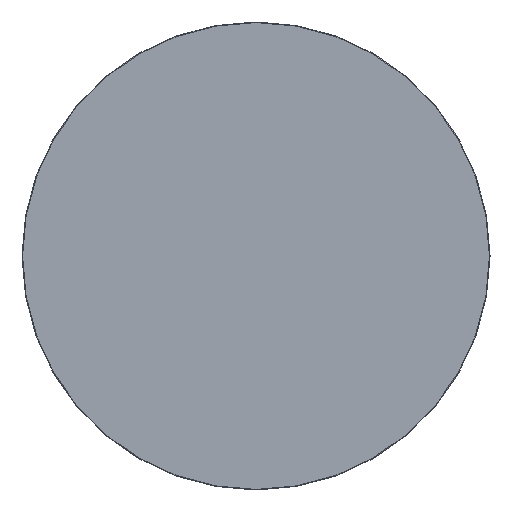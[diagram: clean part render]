
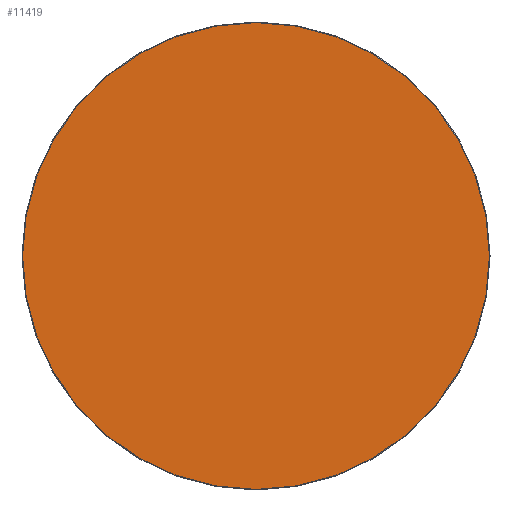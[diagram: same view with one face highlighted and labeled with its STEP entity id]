
A CAD part, top view. The second image highlights one B-rep face of the part: STEP entity #11419.
In plain terms, the highlighted planar face has unit normal (0, 0, 1).
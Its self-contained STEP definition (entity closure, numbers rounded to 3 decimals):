
#11344=CARTESIAN_POINT('',(0.,0.,20.));
#11345=DIRECTION('',(1.,0.,0.));
#11346=DIRECTION('',(0.,0.,1.));
#11347=AXIS2_PLACEMENT_3D('',#11344,#11346,#11345);
#11348=PLANE('',#11347);
#11349=CARTESIAN_POINT('',(-0.5,-598.5,20.));
#11350=VERTEX_POINT('',#11349);
#11351=CARTESIAN_POINT('',(0.5,-598.5,20.));
#11352=VERTEX_POINT('',#11351);
#11353=CARTESIAN_POINT('',(-0.5,-598.5,20.));
#11354=DIRECTION('',(1.,0.,0.));
#11355=VECTOR('',#11354,1.);
#11356=LINE('',#11353,#11355);
#11357=EDGE_CURVE('',#11350,#11352,#11356,.T.);
#11358=ORIENTED_EDGE('E105',*,*,#11357,.T.);
#11359=CARTESIAN_POINT('',(598.5,-0.5,20.));
#11360=VERTEX_POINT('',#11359);
#11361=CARTESIAN_POINT('',(0.5,-0.5,20.));
#11362=DIRECTION('',(0.,-1.,0.));
#11363=DIRECTION('',(0.,-0.,1.));
#11364=AXIS2_PLACEMENT_3D('',#11361,#11363,#11362);
#11365=CIRCLE('',#11364,598.);
#11366=EDGE_CURVE('',#11352,#11360,#11365,.T.);
#11367=ORIENTED_EDGE('E107',*,*,#11366,.T.);
#11368=CARTESIAN_POINT('',(598.5,0.5,20.));
#11369=VERTEX_POINT('',#11368);
#11370=CARTESIAN_POINT('',(598.5,-0.5,20.));
#11371=DIRECTION('',(0.,1.,0.));
#11372=VECTOR('',#11371,1.);
#11373=LINE('',#11370,#11372);
#11374=EDGE_CURVE('',#11360,#11369,#11373,.T.);
#11375=ORIENTED_EDGE('E109',*,*,#11374,.T.);
#11376=CARTESIAN_POINT('',(0.5,598.5,20.));
#11377=VERTEX_POINT('',#11376);
#11378=CARTESIAN_POINT('',(0.5,0.5,20.));
#11379=DIRECTION('',(1.,0.,0.));
#11380=DIRECTION('',(0.,0.,1.));
#11381=AXIS2_PLACEMENT_3D('',#11378,#11380,#11379);
#11382=CIRCLE('',#11381,598.);
#11383=EDGE_CURVE('',#11369,#11377,#11382,.T.);
#11384=ORIENTED_EDGE('E111',*,*,#11383,.T.);
#11385=CARTESIAN_POINT('',(-0.5,598.5,20.));
#11386=VERTEX_POINT('',#11385);
#11387=CARTESIAN_POINT('',(0.5,598.5,20.));
#11388=DIRECTION('',(-1.,0.,0.));
#11389=VECTOR('',#11388,1.);
#11390=LINE('',#11387,#11389);
#11391=EDGE_CURVE('',#11377,#11386,#11390,.T.);
#11392=ORIENTED_EDGE('E113',*,*,#11391,.T.);
#11393=CARTESIAN_POINT('',(-598.5,0.5,20.));
#11394=VERTEX_POINT('',#11393);
#11395=CARTESIAN_POINT('',(-0.5,0.5,20.));
#11396=DIRECTION('',(0.,1.,0.));
#11397=DIRECTION('',(0.,0.,1.));
#11398=AXIS2_PLACEMENT_3D('',#11395,#11397,#11396);
#11399=CIRCLE('',#11398,598.);
#11400=EDGE_CURVE('',#11386,#11394,#11399,.T.);
#11401=ORIENTED_EDGE('E115',*,*,#11400,.T.);
#11402=CARTESIAN_POINT('',(-598.5,-0.5,20.));
#11403=VERTEX_POINT('',#11402);
#11404=CARTESIAN_POINT('',(-598.5,0.5,20.));
#11405=DIRECTION('',(0.,-1.,0.));
#11406=VECTOR('',#11405,1.);
#11407=LINE('',#11404,#11406);
#11408=EDGE_CURVE('',#11394,#11403,#11407,.T.);
#11409=ORIENTED_EDGE('E117',*,*,#11408,.T.);
#11410=CARTESIAN_POINT('',(-0.5,-0.5,20.));
#11411=DIRECTION('',(-1.,0.,0.));
#11412=DIRECTION('',(0.,0.,1.));
#11413=AXIS2_PLACEMENT_3D('',#11410,#11412,#11411);
#11414=CIRCLE('',#11413,598.);
#11415=EDGE_CURVE('',#11403,#11350,#11414,.T.);
#11416=ORIENTED_EDGE('E119',*,*,#11415,.T.);
#11417=EDGE_LOOP('',(#11358,#11367,#11375,#11384,#11392,#11401,#11409,#11416));
#11418=FACE_OUTER_BOUND('',#11417,.T.);
#11419=ADVANCED_FACE('F2',(#11418),#11348,.T.);
